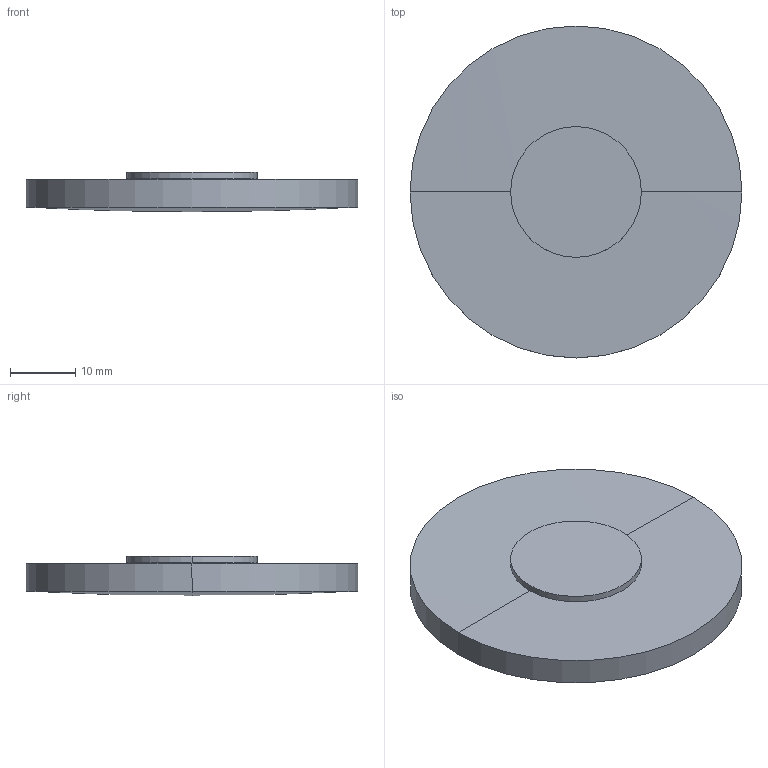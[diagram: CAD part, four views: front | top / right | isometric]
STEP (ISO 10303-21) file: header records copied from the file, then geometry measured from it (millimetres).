
FILE_DESCRIPTION(('STEP AP214'),'1');
FILE_NAME('LLV-51760.STEP','2020-03-09T17:42:28',(' '),(' '),'Spatial InterOp 3D',' ',' ');
FILE_SCHEMA(('AUTOMOTIVE_DESIGN { 1 0 10303 214 1 1 1 1 }'));
Length unit declared in the file: millimetre
Products named in the file (1): 1
Bounding box: 50.8 x 50.8 x 6 mm (x, y, z)
Volume: 9590.5 mm3; surface area: 5409.2 mm2
Topology: 2 solids, 2 shells, 10 faces, 20 edges, 10 vertices
Faces by surface type: sphere 4, cylinder 4, plane 2
Entity records: 255 total; most frequent: DIRECTION 52, CARTESIAN_POINT 38, ORIENTED_EDGE 32, AXIS2_PLACEMENT_3D 24, EDGE_CURVE 16, CIRCLE 12, ADVANCED_FACE 10, FACE_OUTER_BOUND 10
